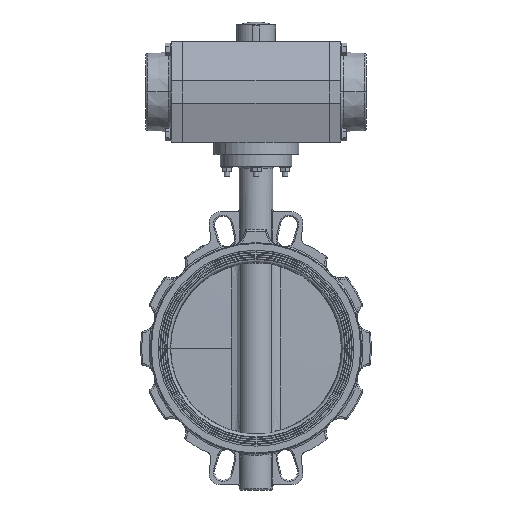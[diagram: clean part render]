
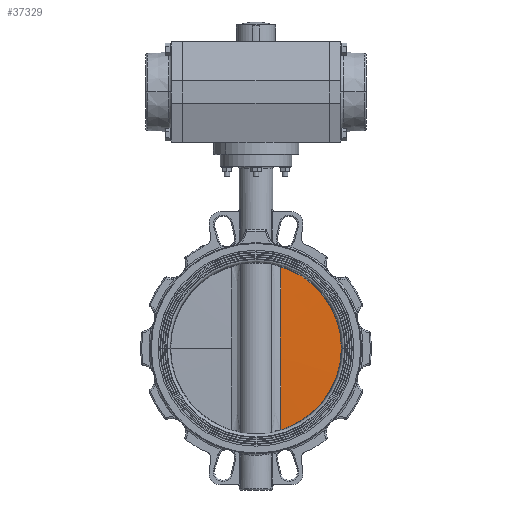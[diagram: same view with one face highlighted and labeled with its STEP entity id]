
A CAD part, front view. The second image highlights one B-rep face of the part: STEP entity #37329.
In plain terms, the highlighted conical face has half-angle 89.141 degrees and reference radius 66666.7 mm.
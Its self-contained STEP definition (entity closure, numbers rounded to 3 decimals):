
#369 = CARTESIAN_POINT ( 'NONE',  ( 994., 0., 0. ) ) ;
#1526 = CARTESIAN_POINT ( 'NONE',  ( -4.589, 83.67, 43.401 ) ) ;
#1630 = VERTEX_POINT ( 'NONE', #53171 ) ;
#1751 = CARTESIAN_POINT ( 'NONE',  ( -3.75, -143.428, 43.913 ) ) ;
#5259 = ORIENTED_EDGE ( 'NONE', *, *, #54622, .T. ) ;
#6806 = CARTESIAN_POINT ( 'NONE',  ( -5.044, 47.815, 43.078 ) ) ;
#8474 = CARTESIAN_POINT ( 'NONE',  ( -3.75, 0., 0. ) ) ;
#12101 = CARTESIAN_POINT ( 'NONE',  ( -5.358, 11.958, 42.794 ) ) ;
#13734 = DIRECTION ( 'NONE',  ( 0., 0., 1. ) ) ;
#13804 = CIRCLE ( 'NONE', #45476, 150. ) ;
#16392 = DIRECTION ( 'NONE',  ( 1., 0., 0. ) ) ;
#17316 = CARTESIAN_POINT ( 'NONE',  ( -5.276, -23.904, 42.88 ) ) ;
#18615 = EDGE_LOOP ( 'NONE', ( #33677, #29993, #5259 ) ) ;
#18865 = VERTEX_POINT ( 'NONE', #48719 ) ;
#19285 = AXIS2_PLACEMENT_3D ( 'NONE', #369, #16392, #42598 ) ;
#19645 = CARTESIAN_POINT ( 'NONE',  ( -3.75, 0., 0. ) ) ;
#22615 = CARTESIAN_POINT ( 'NONE',  ( -4.898, -59.762, 43.188 ) ) ;
#24909 = DIRECTION ( 'NONE',  ( 0., 0., 1. ) ) ;
#26894 = VERTEX_POINT ( 'NONE', #47848 ) ;
#27875 = CARTESIAN_POINT ( 'NONE',  ( -4.426, -95.619, 43.506 ) ) ;
#28372 = CONICAL_SURFACE ( 'NONE', #19285, 66666.667, 1.556 ) ;
#29993 = ORIENTED_EDGE ( 'NONE', *, *, #43951, .T. ) ;
#30009 = CARTESIAN_POINT ( 'NONE',  ( -3.922, 131.477, 43.813 ) ) ;
#32944 = CARTESIAN_POINT ( 'NONE',  ( -4.426, 95.622, 43.506 ) ) ;
#33186 = CARTESIAN_POINT ( 'NONE',  ( -3.922, -131.476, 43.813 ) ) ;
#33677 = ORIENTED_EDGE ( 'NONE', *, *, #50342, .T. ) ;
#37329 = ADVANCED_FACE ( 'NONE', ( #57962 ), #28372, .T. ) ;
#38242 = CARTESIAN_POINT ( 'NONE',  ( -4.898, 59.767, 43.188 ) ) ;
#42598 = DIRECTION ( 'NONE',  ( 0., 0., -1. ) ) ;
#43525 = CARTESIAN_POINT ( 'NONE',  ( -5.276, 23.911, 42.88 ) ) ;
#43951 = EDGE_CURVE ( 'NONE', #18865, #26894, #48570, .T. ) ;
#45190 = DIRECTION ( 'NONE',  ( -1., 0., 0. ) ) ;
#45476 = AXIS2_PLACEMENT_3D ( 'NONE', #19645, #56437, #24909 ) ;
#47848 = CARTESIAN_POINT ( 'NONE',  ( -3.75, 143.428, 43.913 ) ) ;
#48570 = CIRCLE ( 'NONE', #63132, 150. ) ;
#48719 = CARTESIAN_POINT ( 'NONE',  ( -3.75, 0., 150. ) ) ;
#48820 = B_SPLINE_CURVE_WITH_KNOTS ( 'NONE', 3,
 ( #59133, #30009, #64380, #32944, #1526, #38242, #6806, #43525, #12101, #48836, #17316, #54104, #22615, #59361, #27875, #64621, #33186, #1751 ),
 .UNSPECIFIED., .F., .F.,
 ( 4, 2, 2, 2, 2, 2, 2, 2, 4 ),
 ( 0., 0.036, 0.072, 0.108, 0.143, 0.179, 0.215, 0.251, 0.287 ),
 .UNSPECIFIED. ) ;
#48836 = CARTESIAN_POINT ( 'NONE',  ( -5.358, -11.95, 42.794 ) ) ;
#50342 = EDGE_CURVE ( 'NONE', #1630, #18865, #13804, .T. ) ;
#53171 = CARTESIAN_POINT ( 'NONE',  ( -3.75, -143.428, 43.913 ) ) ;
#54104 = CARTESIAN_POINT ( 'NONE',  ( -5.044, -47.809, 43.078 ) ) ;
#54622 = EDGE_CURVE ( 'NONE', #26894, #1630, #48820, .T. ) ;
#56437 = DIRECTION ( 'NONE',  ( -1., 0., 0. ) ) ;
#57962 = FACE_OUTER_BOUND ( 'NONE', #18615, .T. ) ;
#59133 = CARTESIAN_POINT ( 'NONE',  ( -3.75, 143.428, 43.913 ) ) ;
#59361 = CARTESIAN_POINT ( 'NONE',  ( -4.589, -83.667, 43.401 ) ) ;
#63132 = AXIS2_PLACEMENT_3D ( 'NONE', #8474, #45190, #13734 ) ;
#64380 = CARTESIAN_POINT ( 'NONE',  ( -4.092, 119.525, 43.712 ) ) ;
#64621 = CARTESIAN_POINT ( 'NONE',  ( -4.092, -119.524, 43.712 ) ) ;
